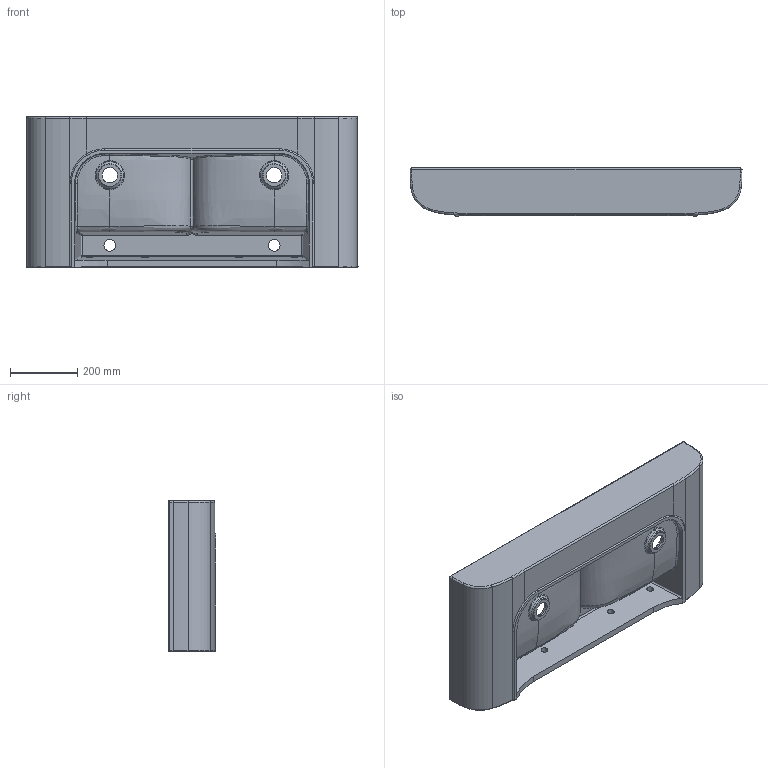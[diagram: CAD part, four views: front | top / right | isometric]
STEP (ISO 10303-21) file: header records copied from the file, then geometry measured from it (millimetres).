
FILE_DESCRIPTION (( 'STEP AP203' ), '1' );
FILE_NAME ('LELP10045D0M.STEP', '2023-03-30T10:53:20', ( '' ), ( '' ), 'SwSTEP 2.0', 'SolidWorks 2023', '' );
FILE_SCHEMA (( 'CONFIG_CONTROL_DESIGN' ));
Length unit declared in the file: millimetre
Products named in the file (1): LELP10045D0M
Bounding box: 989.92 x 143 x 450 mm (x, y, z)
Volume: 17240131.1 mm3; surface area: 1641922.8 mm2
Topology: 1 solids, 1 shells, 211 faces, 529 edges, 316 vertices
Faces by surface type: bspline 100, cylinder 48, torus 32, plane 23, sphere 6, cone 2
Full cylindrical faces by diameter (mm): 20 x4, 35 x2, 46 x2, 66 x2
Entity records: 51226 total; most frequent: CARTESIAN_POINT 46904, ORIENTED_EDGE 1016, DIRECTION 707, EDGE_CURVE 508, AXIS2_PLACEMENT_3D 309, VERTEX_POINT 308, EDGE_LOOP 236, FACE_OUTER_BOUND 221
